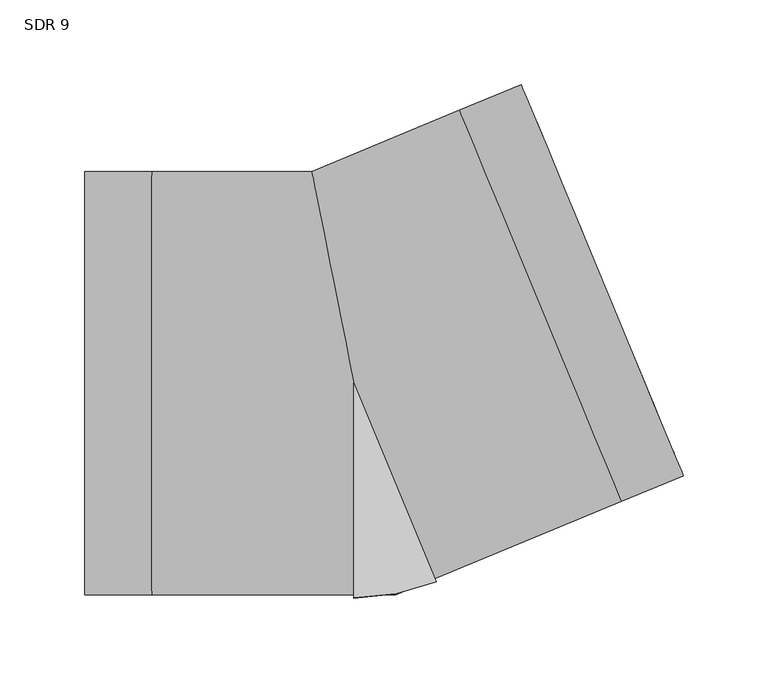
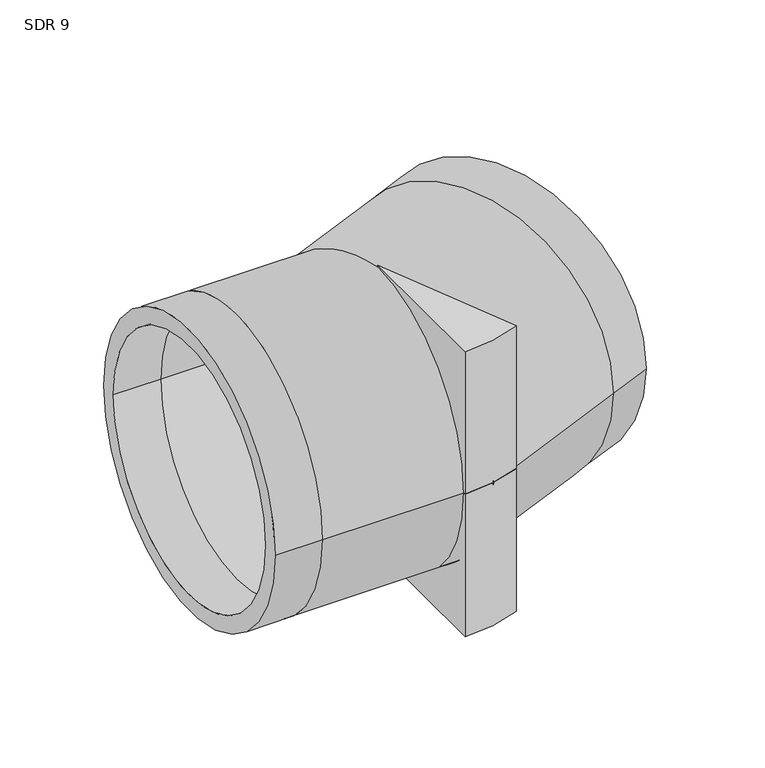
"""IFC4 building model written with IfcOpenShell, lengths in millimetres: pipe fitting geometry, Aquatherm - Elbow Blue BW Segmented : SDR 9."""

import ifcopenshell
import ifcopenshell.guid

model = None  # the IFC model being written
_history = None  # IfcOwnerHistory: only IFC2X3 demands one
_inside = {}  # id of a spatial element -> (the spatial element, [elements in it])
_under = {}  # id of a project, library or spatial element -> (it, [spatial elements below it])
_declared = {}  # id of a project -> (the project, [libraries it declares])
_typed = {}  # id of a type object -> (the type object, [elements of that type])
_made_of = {}  # id of a material, layer set ... -> (it, [elements and type objects made of it])


def new_model(schema):
    """Start an empty IFC model of exactly this schema.

    Asked for "IFC4X3", IfcOpenShell would pick the latest addendum, in which some entities
    have other attributes; the version numbers below select the first issue.
    IFC2X3 requires an IfcOwnerHistory on every rooted entity: one is made here for all.
    """
    global model, _history
    if schema == "IFC4X3":
        model = ifcopenshell.file(schema_version=(4, 3, 0, 0))
    else:
        model = ifcopenshell.file(schema=schema)
    _inside.clear()
    _under.clear()
    _declared.clear()
    _typed.clear()
    _made_of.clear()
    _history = None
    if model.schema == "IFC2X3":
        org = make("IfcOrganization", Name="unknown")
        user = make(
            "IfcPersonAndOrganization",
            ThePerson=make("IfcPerson", FamilyName="unknown"),
            TheOrganization=org,
        )
        app = make(
            "IfcApplication",
            ApplicationDeveloper=org,
            Version="unknown",
            ApplicationFullName="unknown",
            ApplicationIdentifier="unknown",
        )
        _history = make(
            "IfcOwnerHistory",
            OwningUser=user,
            OwningApplication=app,
            ChangeAction="ADDED",
            CreationDate=0,
        )
    return model


def make(cls, **values):
    """One entity of the class cls with the attributes given. An attribute that is None is left unset."""
    return model.create_entity(
        cls, **{name: value for name, value in values.items() if value is not None}
    )


def rooted(cls, **values):
    """An entity with a GlobalId (a new one), such as an element, a storey or a relation."""
    return make(cls, GlobalId=ifcopenshell.guid.new(), OwnerHistory=_history, **values)


def si_unit(unit_type, name, prefix=None):
    """IfcSIUnit, for example si_unit("LENGTHUNIT", "METRE", prefix="MILLI")."""
    return make("IfcSIUnit", UnitType=unit_type, Prefix=prefix, Name=name)


def assignment(units):
    """IfcUnitAssignment: the units of a project."""
    return None if units is None else make("IfcUnitAssignment", Units=units)


def point(xyz):
    """IfcCartesianPoint."""
    return None if xyz is None else make("IfcCartesianPoint", Coordinates=xyz)


def direction(xyz):
    """IfcDirection."""
    return None if xyz is None else make("IfcDirection", DirectionRatios=xyz)


def frame(location, z_axis=None, x_axis=None):
    """IfcAxis2Placement3D, a coordinate frame: its origin and axes. An axis left out is left unset."""
    return make(
        "IfcAxis2Placement3D",
        Location=point(location),
        Axis=direction(z_axis),
        RefDirection=direction(x_axis),
    )


def frame_2d(location, x_axis=None):
    """IfcAxis2Placement2D, a coordinate frame in the plane: its origin and x axis."""
    return make(
        "IfcAxis2Placement2D", Location=point(location), RefDirection=direction(x_axis)
    )


def origin():
    """The frame at (0, 0, 0) with its axes left unset."""
    return frame((0.0, 0.0, 0.0))


def origin_with_axes():
    """The frame at (0, 0, 0) with the z axis (0, 0, 1) and the x axis (1, 0, 0) written out."""
    return frame((0.0, 0.0, 0.0), z_axis=(0.0, 0.0, 1.0), x_axis=(1.0, 0.0, 0.0))


def origin_2d():
    """The frame at (0, 0) in the plane with its x axis left unset."""
    return frame_2d((0.0, 0.0))


def place(relative_to, where):
    """IfcLocalPlacement: puts the frame where relative to a parent placement (None: the world)."""
    return make(
        "IfcLocalPlacement", PlacementRelTo=relative_to, RelativePlacement=where
    )


def context(
    kind, dimensions, precision=None, world=None, true_north=None, identifier=None
):
    """IfcGeometricRepresentationContext, for example the 3D "Model" context."""
    return make(
        "IfcGeometricRepresentationContext",
        ContextIdentifier=identifier,
        ContextType=kind,
        CoordinateSpaceDimension=dimensions,
        Precision=precision,
        WorldCoordinateSystem=world,
        TrueNorth=true_north,
    )


def project(units=None, contexts=None):
    """IfcProject with its units and contexts."""
    return rooted(
        "IfcProject",
        Name="project",
        RepresentationContexts=contexts,
        UnitsInContext=assignment(units),
    )


def spatial(cls, under=None, at=None, **own):
    """A site, building, storey or space (cls), placed at a placement, below another one or the project."""
    s = rooted(cls, ObjectPlacement=at, **own)
    if under is not None:
        _under.setdefault(under.id(), (under, []))[1].append(s)
    return s


def polyline(points):
    """IfcPolyline through the points."""
    return make("IfcPolyline", Points=[point(p) for p in points])


def circle_curve(where, radius):
    """IfcCircle in the frame where."""
    return make("IfcCircle", Position=where, Radius=radius)


def ellipse_curve(where, semi_axis1, semi_axis2):
    """IfcEllipse in the frame where."""
    return make(
        "IfcEllipse", Position=where, SemiAxis1=semi_axis1, SemiAxis2=semi_axis2
    )


def trimmed(basis, trim1, trim2, sense, master):
    """IfcTrimmedCurve: the piece of a basis curve between two trims."""
    return make(
        "IfcTrimmedCurve",
        BasisCurve=basis,
        Trim1=trim1,
        Trim2=trim2,
        SenseAgreement=sense,
        MasterRepresentation=master,
    )


def segment(curve, same_sense, transition):
    """IfcCompositeCurveSegment."""
    return make(
        "IfcCompositeCurveSegment",
        Transition=transition,
        SameSense=same_sense,
        ParentCurve=curve,
    )


def composite_curve(segments, self_intersect=None):
    """IfcCompositeCurve: segments joined end to end."""
    return make("IfcCompositeCurve", Segments=segments, SelfIntersect=self_intersect)


def outline(outer, holes=None, kind="AREA"):
    """IfcArbitraryClosedProfileDef: a profile drawn as a closed curve; with holes, ...WithVoids."""
    if holes is None:
        return make("IfcArbitraryClosedProfileDef", ProfileType=kind, OuterCurve=outer)
    return make(
        "IfcArbitraryProfileDefWithVoids",
        ProfileType=kind,
        OuterCurve=outer,
        InnerCurves=holes,
    )


def extrude(swept, where, along, depth):
    """IfcExtrudedAreaSolid: the profile swept, set in the frame where, extruded along a direction by depth."""
    return make(
        "IfcExtrudedAreaSolid",
        SweptArea=swept,
        Position=where,
        ExtrudedDirection=direction(along),
        Depth=depth,
    )


def shape(context_of_items, identifier, shape_type, items):
    """IfcShapeRepresentation: the items that make up one representation, for example the "Body"."""
    return make(
        "IfcShapeRepresentation",
        ContextOfItems=context_of_items,
        RepresentationIdentifier=identifier,
        RepresentationType=shape_type,
        Items=items,
    )


def source(mapping_origin, context_of_items, identifier, shape_type, items):
    """IfcRepresentationMap: a shape defined once, which mapped items show again and again."""
    return make(
        "IfcRepresentationMap",
        MappingOrigin=mapping_origin,
        MappedRepresentation=shape(context_of_items, identifier, shape_type, items),
    )


def transform(
    local_origin,
    x_axis=None,
    y_axis=None,
    z_axis=None,
    scale=None,
    scale2=None,
    scale3=None,
    uniform=True,
):
    """IfcCartesianTransformationOperator3D, or its non-uniform kind. x_axis, y_axis, z_axis: its Axis1, 2, 3."""
    if uniform:
        return make(
            "IfcCartesianTransformationOperator3D",
            Axis1=direction(x_axis),
            Axis2=direction(y_axis),
            LocalOrigin=point(local_origin),
            Scale=scale,
            Axis3=direction(z_axis),
        )
    return make(
        "IfcCartesianTransformationOperator3DnonUniform",
        Axis1=direction(x_axis),
        Axis2=direction(y_axis),
        LocalOrigin=point(local_origin),
        Scale=scale,
        Axis3=direction(z_axis),
        Scale2=scale2,
        Scale3=scale3,
    )


def mapped(mapping_source, mapping_target):
    """IfcMappedItem: shows the shape of a source again, moved by a transform."""
    return make(
        "IfcMappedItem", MappingSource=mapping_source, MappingTarget=mapping_target
    )


def made_of(thing, what):
    """Note that an element or type object is made of a material, layer set ...; save() writes the relation."""
    if what is not None:
        _made_of.setdefault(what.id(), (what, []))[1].append(thing)
    return thing


def element(
    cls,
    number,
    at=None,
    inside=None,
    cuts=None,
    type_object=None,
    material=None,
    context=None,
    identifier="Body",
    shape_type=None,
    held_by="IfcProductDefinitionShape",
    body=None,
    shapes=None,
    **own,
):
    """One element of the class cls, such as IfcWall. Its Tag is "e" and its number.

    at: its placement. inside: the storey or other place that contains it. cuts: it is an
    opening in that element (IfcRelVoidsElement). A single representation is given by context,
    identifier, shape_type and body (its items); several are given by shapes. held_by: the class
    of the entity that holds the representations. save() writes the other relations.
    """
    e = rooted(cls, Tag="e%d" % number, ObjectPlacement=at, **own)
    if body is not None:
        shapes = [shape(context, identifier, shape_type, body)]
    if shapes is not None:
        e.Representation = make(held_by, Representations=shapes)
    if inside is not None:
        _inside.setdefault(inside.id(), (inside, []))[1].append(e)
    if cuts is not None:
        rooted(
            "IfcRelVoidsElement", RelatingBuildingElement=cuts, RelatedOpeningElement=e
        )
    if type_object is not None:
        _typed.setdefault(type_object.id(), (type_object, []))[1].append(e)
    return made_of(e, material)


def aggregate(whole, parts):
    """IfcRelAggregates: a whole, such as a stair, and the parts it consists of."""
    return rooted("IfcRelAggregates", RelatingObject=whole, RelatedObjects=parts)


def save(model, path):
    """Write the relations noted so far, then the file.

    IfcRelAggregates (storeys below a building ...), IfcRelContainedInSpatialStructure (elements
    in a storey), IfcRelDefinesByType, IfcRelAssociatesMaterial and IfcRelDeclares: one each for
    every whole, place, type object, material and project.
    """
    for whole, parts in _under.values():
        aggregate(whole, parts)
    for where, things in _inside.values():
        rooted(
            "IfcRelContainedInSpatialStructure",
            RelatedElements=things,
            RelatingStructure=where,
        )
    for kind, things in _typed.values():
        rooted("IfcRelDefinesByType", RelatedObjects=things, RelatingType=kind)
    for what, things in _made_of.values():
        rooted("IfcRelAssociatesMaterial", RelatedObjects=things, RelatingMaterial=what)
    for by, libraries in _declared.values():
        rooted("IfcRelDeclares", RelatingContext=by, RelatedDefinitions=libraries)
    model.write(path)


def plane_surface(at):
    """IfcPlane: the flat surface through the origin of the frame at, square to its z axis."""
    return make("IfcPlane", Position=at)


def cylinder_surface(at, radius):
    """IfcCylindricalSurface: all points at the distance radius from the z axis of the frame at."""
    return make("IfcCylindricalSurface", Position=at, Radius=radius)


def revolved_surface(curve, axis_point, axis_direction):
    """IfcSurfaceOfRevolution: the curve turned about the line through axis_point along axis_direction."""
    return make(
        "IfcSurfaceOfRevolution",
        SweptCurve=make("IfcArbitraryOpenProfileDef", ProfileType="CURVE", Curve=curve),
        AxisPosition=make("IfcAxis1Placement", Location=point(axis_point), Axis=direction(axis_direction)),
    )


def advanced_brep(points, edges, surfaces, faces):
    """IfcAdvancedBrep: a solid bounded by faces that lie on surfaces and meet in shared edges.

    An edge is (start, end): straight between two places in points (the first is 0);
    or (start, end, curve); or (start, end, curve, False) where it runs against its curve.
    A face is (place in surfaces, loops), or (place, loops, False) where it looks against
    its surface's normal. A loop lists edges by number (the first is 1), with a minus sign
    where the edge is run from its end to its start. The first loop is the outer one.
    """
    corners = [point(p) for p in points]
    vertices = [make("IfcVertexPoint", VertexGeometry=c) for c in corners]
    made = []
    for start, end, *more in edges:
        made.append(
            make(
                "IfcEdgeCurve",
                EdgeStart=vertices[start],
                EdgeEnd=vertices[end],
                EdgeGeometry=more[0] if more else make("IfcPolyline", Points=[corners[start], corners[end]]),
                SameSense=more[1] if len(more) > 1 else True,
            )
        )
    hull = []
    for where, loops, *sense in faces:
        bounds = []
        for j, loop in enumerate(loops):
            ring = [make("IfcOrientedEdge", EdgeElement=made[abs(k) - 1], Orientation=k > 0) for k in loop]
            bounds.append(
                make(
                    "IfcFaceOuterBound" if j == 0 else "IfcFaceBound",
                    Bound=make("IfcEdgeLoop", EdgeList=ring),
                    Orientation=True,
                )
            )
        hull.append(make("IfcAdvancedFace", Bounds=bounds, FaceSurface=surfaces[where], SameSense=sense[0] if sense else True))
    return make("IfcAdvancedBrep", Outer=make("IfcClosedShell", CfsFaces=hull))


def sdr_9_69016457(model_context):
    return source(origin(), model_context, "Body", "SolidModel", [
        extrude(outline(composite_curve([segment(polyline([(0.0, -127.0), (0.0, 0.0), (48.6007959, -117.3327006)]), True, "CONTINUOUS"), segment(trimmed(circle_curve(origin_2d(), 127.0), [point((48.6007959, -117.3327006))], [point((0.0, -127.0))], False, "CARTESIAN"), True, "CONTINUOUS")], self_intersect=False)), frame((0.0, 0.0, -127.0), z_axis=(0.0, 0.0, 1.0), x_axis=(1.0, 0.0, 0.0)), (0.0, 0.0, 1.0), 127.0),
        extrude(outline(composite_curve([segment(trimmed(circle_curve(origin_2d(), 127.0), [point((48.6007959, -117.3327006))], [point((0.0, -127.0))], False, "CARTESIAN"), True, "CONTINUOUS"), segment(polyline([(0.0, -127.0), (0.0, 0.0), (48.6007959, -117.3327006)]), True, "CONTINUOUS")], self_intersect=False)), origin_with_axes(), (0.0, 0.0, 1.0), 127.0),
        advanced_brep(
        [(-158.75, -124.968, 0.0), (-158.75, 124.968, 0.0), (-158.75, -110.7683515, 0.0), (-158.75, 110.7683515, 0.0), (194.489059, -54.7043825, 0.0), (98.8426926, 176.2063723, 0.0), (189.0550887, -41.5856179, 0.0), (104.2766628, 163.0876077, 0.0), (-119.0625, -124.968, 0.0), (-119.0625, 124.968, 0.0), (-119.0625, -110.7683515, 0.0), (-119.0625, 110.7683515, 0.0), (24.8576807, -124.968, 0.0), (-24.8576807, 124.968, 0.0), (22.033195, -110.7683515, 0.0), (-22.033195, 110.7683515, 0.0), (157.82259, -69.8921313, 0.0), (62.1762237, 161.0186236, 0.0), (152.3886198, -56.7733667, 0.0), (67.6101939, 147.899859, 0.0)],
        [
            (0, 1, circle_curve(frame((-158.75, 0.0, 0.0), z_axis=(-1.0, 0.0, 0.0), x_axis=(0.0, 1.0, 0.0)), 124.968)),
            (1, 0, circle_curve(frame((-158.75, 0.0, 0.0), z_axis=(-1.0, 0.0, 0.0), x_axis=(0.0, 1.0, 0.0)), 124.968)),
            (2, 3, circle_curve(frame((-158.75, 0.0, 0.0), z_axis=(1.0, 0.0, 0.0), x_axis=(0.0, 1.0, 0.0)), 110.7683515)),
            (3, 2, circle_curve(frame((-158.75, 0.0, 0.0), z_axis=(1.0, 0.0, 0.0), x_axis=(0.0, 1.0, 0.0)), 110.7683515)),
            (4, 5, circle_curve(frame((146.6658758, 60.7509949, 0.0), z_axis=(0.923879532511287, 0.38268343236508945, 0.0), x_axis=(-0.38268343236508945, 0.923879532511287, 0.0)), 124.968)),
            (5, 4, circle_curve(frame((146.6658758, 60.7509949, 0.0), z_axis=(0.923879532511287, 0.38268343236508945, 0.0), x_axis=(-0.38268343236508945, 0.923879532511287, 0.0)), 124.968)),
            (6, 7, circle_curve(frame((146.6658758, 60.7509949, 0.0), z_axis=(-0.923879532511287, -0.38268343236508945, 0.0), x_axis=(-0.38268343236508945, 0.923879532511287, 0.0)), 110.7683515)),
            (7, 6, circle_curve(frame((146.6658758, 60.7509949, 0.0), z_axis=(-0.923879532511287, -0.38268343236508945, 0.0), x_axis=(-0.38268343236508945, 0.923879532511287, 0.0)), 110.7683515)),
            (0, 8),
            (8, 9, circle_curve(frame((-119.0625, 0.0, 0.0), z_axis=(-1.0, 0.0, 0.0), x_axis=(0.0, 1.0, 0.0)), 124.968)),
            (9, 1),
            (9, 8, circle_curve(frame((-119.0625, 0.0, 0.0), z_axis=(-1.0, 0.0, 0.0), x_axis=(0.0, 1.0, 0.0)), 124.968)),
            (2, 10),
            (10, 11, circle_curve(frame((-119.0625, 0.0, 0.0), z_axis=(1.0, 0.0, 0.0), x_axis=(0.0, 1.0, 0.0)), 110.7683515)),
            (11, 3),
            (11, 10, circle_curve(frame((-119.0625, 0.0, 0.0), z_axis=(1.0, 0.0, 0.0), x_axis=(0.0, 1.0, 0.0)), 110.7683515)),
            (8, 12),
            (12, 13, ellipse_curve(frame((0.0, 0.0, 0.0), z_axis=(-0.9807852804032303, -0.19509032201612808, 0.0), x_axis=(-0.19509032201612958, 0.9807852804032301, 0.0)), 127.4162679, 124.968)),
            (13, 9),
            (13, 12, ellipse_curve(frame((0.0, 0.0, 0.0), z_axis=(-0.9807852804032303, -0.19509032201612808, 0.0), x_axis=(-0.19509032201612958, 0.9807852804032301, 0.0)), 127.4162679, 124.968)),
            (10, 14),
            (14, 15, ellipse_curve(frame((0.0, 0.0, 0.0), z_axis=(0.9807852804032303, 0.19509032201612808, 0.0), x_axis=(0.19509032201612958, -0.9807852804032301, 0.0)), 112.9384318, 110.7683515)),
            (15, 11),
            (15, 14, ellipse_curve(frame((0.0, 0.0, 0.0), z_axis=(0.9807852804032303, 0.19509032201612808, 0.0), x_axis=(0.19509032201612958, -0.9807852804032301, 0.0)), 112.9384318, 110.7683515)),
            (12, 16),
            (16, 17, circle_curve(frame((109.9994068, 45.5632462, 0.0), z_axis=(-0.9238795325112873, -0.38268343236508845, 0.0), x_axis=(-0.38268343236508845, 0.9238795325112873, 0.0)), 124.968)),
            (17, 13),
            (17, 16, circle_curve(frame((109.9994068, 45.5632462, 0.0), z_axis=(-0.9238795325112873, -0.38268343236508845, 0.0), x_axis=(-0.38268343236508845, 0.9238795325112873, 0.0)), 124.968)),
            (14, 18),
            (18, 19, circle_curve(frame((109.9994068, 45.5632462, 0.0), z_axis=(0.9238795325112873, 0.38268343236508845, 0.0), x_axis=(-0.38268343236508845, 0.9238795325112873, 0.0)), 110.7683515)),
            (19, 15),
            (19, 18, circle_curve(frame((109.9994068, 45.5632462, 0.0), z_axis=(0.9238795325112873, 0.38268343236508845, 0.0), x_axis=(-0.38268343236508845, 0.9238795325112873, 0.0)), 110.7683515)),
            (16, 4),
            (5, 17),
            (18, 6),
            (7, 19),
        ],
        [
            plane_surface(frame((-158.75, 0.0, 0.0), z_axis=(-1.0, 0.0, 0.0), x_axis=(0.0, 0.0, 1.0))),
            plane_surface(frame((146.6658758, 60.7509949, 0.0), z_axis=(0.923879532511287, 0.38268343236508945, 0.0), x_axis=(0.0, 0.0, 1.0))),
            cylinder_surface(frame((-158.75, 0.0, 0.0), z_axis=(-1.0, 0.0, 0.0), x_axis=(0.0, 1.0, 0.0)), 124.968),
            revolved_surface(polyline([(-119.0625, 110.7683515, 0.0), (-158.75, 110.7683515, 0.0)]), (-158.75, 0.0, 0.0), (1.0, 0.0, 0.0)),
            cylinder_surface(frame((-119.0625, 0.0, 0.0), z_axis=(-1.0, 0.0, 0.0), x_axis=(0.0, 1.0, 0.0)), 124.968),
            revolved_surface(polyline([(22.03319502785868, 110.7683515, 0.0), (-119.0625, 110.7683515, 0.0)]), (-119.0625, 0.0, 0.0), (1.0, 0.0, 0.0)),
            cylinder_surface(frame((0.0, 0.0, 0.0), z_axis=(-0.9238795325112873, -0.38268343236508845, 0.0), x_axis=(-0.38268343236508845, 0.9238795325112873, 0.0)), 124.968),
            revolved_surface(polyline([(67.61019391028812, 147.8998589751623, 0.0), (-62.74523089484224, 93.90487409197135, 0.0)]), (0.0, 0.0, 0.0), (0.9238795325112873, 0.38268343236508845, 0.0)),
            cylinder_surface(frame((109.9994068, 45.5632462, 0.0), z_axis=(-0.923879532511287, -0.38268343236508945, 0.0), x_axis=(-0.38268343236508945, 0.923879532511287, 0.0)), 124.968),
            revolved_surface(polyline([(104.27666283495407, 163.0876077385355, 0.0), (67.61019385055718, 147.89985900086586, 0.0)]), (109.9994068, 45.5632462, 0.0), (0.923879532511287, 0.38268343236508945, 0.0)),
        ],
        [
            (0, [[1, 2], [3, 4]]),
            (1, [[5, 6], [7, 8]]),
            (2, [[-1, 9, 10, 11]]),
            (2, [[-2, -11, 12, -9]]),
            (3, [[-3, 13, 14, 15]]),
            (3, [[-4, -15, 16, -13]]),
            (4, [[-10, 17, 18, 19]]),
            (4, [[-12, -19, 20, -17]]),
            (5, [[-14, 21, 22, 23]]),
            (5, [[-16, -23, 24, -21]]),
            (6, [[-18, 25, 26, 27]]),
            (6, [[-20, -27, 28, -25]]),
            (7, [[-22, 29, 30, 31]]),
            (7, [[-24, -31, 32, -29]]),
            (8, [[-26, 33, -6, 34]]),
            (8, [[-28, -34, -5, -33]]),
            (9, [[-30, 35, -8, 36]]),
            (9, [[-32, -36, -7, -35]]),
        ],
    ),
    ])


if __name__ == "__main__":
    model = new_model("IFC4")
    model_context = context("Model", 3, world=origin())
    ifc_project = project(units=[si_unit("LENGTHUNIT", "METRE", prefix="MILLI")], contexts=[model_context])
    site = spatial("IfcSite", under=ifc_project)
    building = spatial("IfcBuilding", under=site)
    placement = place(None, origin())
    sdr_9_shape = sdr_9_69016457(model_context)
    element("IfcPipeFitting", 1, ObjectType="Aquatherm - Elbow Blue BW Segmented : SDR 9", at=placement, inside=building, context=model_context, shape_type="MappedRepresentation", body=[
        mapped(sdr_9_shape, transform((0.0, 0.0, 0.0), x_axis=(1.0, 0.0, 0.0), y_axis=(0.0, 1.0, 0.0), z_axis=(0.0, 0.0, 1.0))),
    ])
    save(model, "model.ifc")
